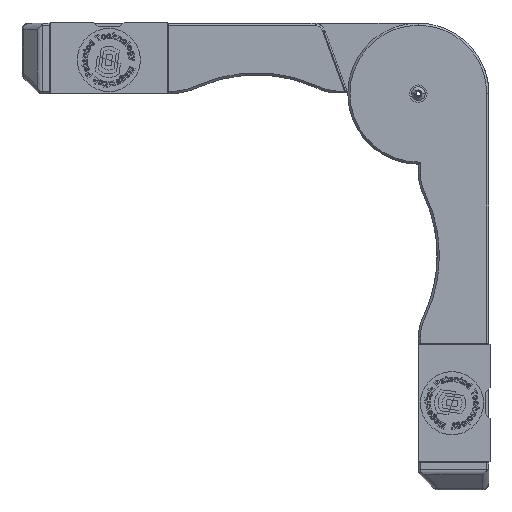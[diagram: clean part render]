
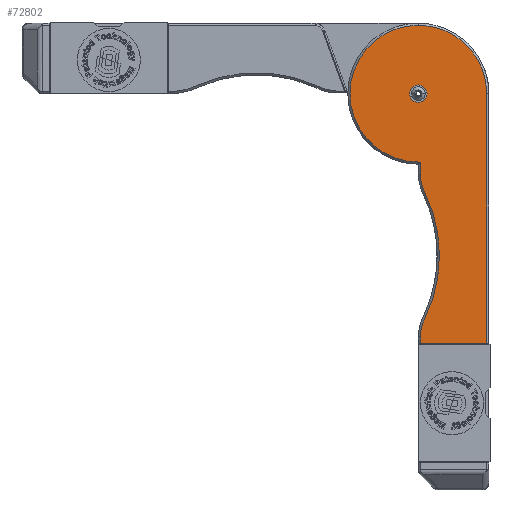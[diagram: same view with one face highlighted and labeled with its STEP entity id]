
A CAD part, left-side view. The second image highlights one B-rep face of the part: STEP entity #72802.
In plain terms, the highlighted planar face has unit normal (-1, 0, 0).
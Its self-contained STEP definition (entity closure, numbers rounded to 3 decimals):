
#2 = ORIENTED_EDGE ( 'NONE', *, *, #88353, .T. ) ;
#121 = CARTESIAN_POINT ( 'NONE',  ( 0., 32.5, 182.5 ) ) ;
#4116 = AXIS2_PLACEMENT_3D ( 'NONE', #25787, #7199, #34837 ) ;
#5517 = DIRECTION ( 'NONE',  ( 1., 0., 0. ) ) ;
#6625 = FACE_BOUND ( 'NONE', #60863, .T. ) ;
#7199 = DIRECTION ( 'NONE',  ( 1., 0., 0. ) ) ;
#7974 = DIRECTION ( 'NONE',  ( 0., 0., 1. ) ) ;
#8461 = CIRCLE ( 'NONE', #17123, 31.5 ) ;
#9912 = DIRECTION ( 'NONE',  ( 1., 0., 0. ) ) ;
#10120 = DIRECTION ( 'NONE',  ( -1., 0., 0. ) ) ;
#10487 = CARTESIAN_POINT ( 'NONE',  ( 0., 32.5, 151. ) ) ;
#10897 = DIRECTION ( 'NONE',  ( 0., 0., 1. ) ) ;
#11443 = EDGE_CURVE ( 'NONE', #16350, #42594, #71602, .T. ) ;
#11577 = EDGE_LOOP ( 'NONE', ( #111543, #2, #114775, #24382, #39953, #70465, #61548, #63711, #88092, #99226 ) ) ;
#12343 = EDGE_CURVE ( 'NONE', #105868, #107606, #94990, .T. ) ;
#12499 = CIRCLE ( 'NONE', #19021, 19. ) ;
#12805 = DIRECTION ( 'NONE',  ( 0., 0., 1. ) ) ;
#13199 = CARTESIAN_POINT ( 'NONE',  ( 0., 1., 182.5 ) ) ;
#14616 = CARTESIAN_POINT ( 'NONE',  ( 0., 32.5, 182.5 ) ) ;
#14781 = VERTEX_POINT ( 'NONE', #63027 ) ;
#15048 = EDGE_CURVE ( 'NONE', #67876, #73642, #12499, .T. ) ;
#16350 = VERTEX_POINT ( 'NONE', #37163 ) ;
#16491 = CARTESIAN_POINT ( 'NONE',  ( 0., 65., 67.5 ) ) ;
#16895 = CARTESIAN_POINT ( 'NONE',  ( 0., 31.5, 151.016 ) ) ;
#17123 = AXIS2_PLACEMENT_3D ( 'NONE', #116475, #70558, #7974 ) ;
#17378 = CIRCLE ( 'NONE', #41175, 4. ) ;
#17557 = DIRECTION ( 'NONE',  ( 0., 0., 1. ) ) ;
#17841 = VECTOR ( 'NONE', #12805, 1000. ) ;
#18377 = DIRECTION ( 'NONE',  ( 0., 0., 1. ) ) ;
#19021 = AXIS2_PLACEMENT_3D ( 'NONE', #104927, #50635, #32412 ) ;
#19571 = EDGE_CURVE ( 'NONE', #60131, #16350, #68868, .T. ) ;
#20937 = CARTESIAN_POINT ( 'NONE',  ( 0., 12.5, 145.478 ) ) ;
#21852 = VERTEX_POINT ( 'NONE', #111226 ) ;
#24238 = VERTEX_POINT ( 'NONE', #67218 ) ;
#24382 = ORIENTED_EDGE ( 'NONE', *, *, #11443, .T. ) ;
#25101 = EDGE_CURVE ( 'NONE', #24238, #67876, #105286, .T. ) ;
#25787 = CARTESIAN_POINT ( 'NONE',  ( 0., 88.792, 108. ) ) ;
#27273 = EDGE_CURVE ( 'NONE', #110884, #24238, #52408, .T. ) ;
#28303 = CARTESIAN_POINT ( 'NONE',  ( 0., 32.5, 182.5 ) ) ;
#31363 = CIRCLE ( 'NONE', #98314, 4. ) ;
#32412 = DIRECTION ( 'NONE',  ( 0., 0., 1. ) ) ;
#33441 = VECTOR ( 'NONE', #79553, 1000. ) ;
#34631 = CARTESIAN_POINT ( 'NONE',  ( 0., 32.5, 178.5 ) ) ;
#34837 = DIRECTION ( 'NONE',  ( 0., 0., 1. ) ) ;
#36173 = CARTESIAN_POINT ( 'NONE',  ( 0., 32.5, 182.5 ) ) ;
#36452 = EDGE_CURVE ( 'NONE', #107606, #110884, #54734, .T. ) ;
#37163 = CARTESIAN_POINT ( 'NONE',  ( 0., 1., 182.5 ) ) ;
#39724 = CARTESIAN_POINT ( 'NONE',  ( 0., 31.5, 70.522 ) ) ;
#39953 = ORIENTED_EDGE ( 'NONE', *, *, #51779, .T. ) ;
#41175 = AXIS2_PLACEMENT_3D ( 'NONE', #45543, #9912, #72484 ) ;
#42594 = VERTEX_POINT ( 'NONE', #73099 ) ;
#43116 = CARTESIAN_POINT ( 'NONE',  ( 0., 31.5, 182.5 ) ) ;
#45543 = CARTESIAN_POINT ( 'NONE',  ( 0., 32.5, 182.5 ) ) ;
#50217 = PLANE ( 'NONE',  #73853 ) ;
#50635 = DIRECTION ( 'NONE',  ( -1., 0., 0. ) ) ;
#51779 = EDGE_CURVE ( 'NONE', #42594, #105868, #8461, .T. ) ;
#52408 = CIRCLE ( 'NONE', #96722, 19. ) ;
#52844 = CARTESIAN_POINT ( 'NONE',  ( 0., 29.553, 78.9 ) ) ;
#54734 = LINE ( 'NONE', #43116, #33441 ) ;
#58417 = AXIS2_PLACEMENT_3D ( 'NONE', #28303, #10120, #10897 ) ;
#60131 = VERTEX_POINT ( 'NONE', #89359 ) ;
#60457 = DIRECTION ( 'NONE',  ( 0., -1., 0. ) ) ;
#60863 = EDGE_LOOP ( 'NONE', ( #102376, #98971 ) ) ;
#61548 = ORIENTED_EDGE ( 'NONE', *, *, #36452, .T. ) ;
#63027 = CARTESIAN_POINT ( 'NONE',  ( 0., 32.5, 186.5 ) ) ;
#63711 = ORIENTED_EDGE ( 'NONE', *, *, #27273, .T. ) ;
#64475 = AXIS2_PLACEMENT_3D ( 'NONE', #121, #80890, #17557 ) ;
#67218 = CARTESIAN_POINT ( 'NONE',  ( 0., 29.553, 137.1 ) ) ;
#67876 = VERTEX_POINT ( 'NONE', #52844 ) ;
#68868 = LINE ( 'NONE', #13199, #17841 ) ;
#69218 = DIRECTION ( 'NONE',  ( 0., 0., 1. ) ) ;
#70465 = ORIENTED_EDGE ( 'NONE', *, *, #12343, .T. ) ;
#70558 = DIRECTION ( 'NONE',  ( -1., 0., 0. ) ) ;
#71602 = CIRCLE ( 'NONE', #64475, 31.5 ) ;
#72484 = DIRECTION ( 'NONE',  ( 0., 0., 1. ) ) ;
#72802 = ADVANCED_FACE ( 'NONE', ( #6625, #87407 ), #50217, .F. ) ;
#73099 = CARTESIAN_POINT ( 'NONE',  ( 0., 32.5, 214. ) ) ;
#73642 = VERTEX_POINT ( 'NONE', #39724 ) ;
#73853 = AXIS2_PLACEMENT_3D ( 'NONE', #14616, #5517, #104910 ) ;
#78117 = EDGE_CURVE ( 'NONE', #105671, #14781, #31363, .T. ) ;
#79553 = DIRECTION ( 'NONE',  ( 0., 0., -1. ) ) ;
#80890 = DIRECTION ( 'NONE',  ( -1., 0., 0. ) ) ;
#81042 = CARTESIAN_POINT ( 'NONE',  ( 0., 31.5, 145.478 ) ) ;
#87407 = FACE_OUTER_BOUND ( 'NONE', #11577, .T. ) ;
#88092 = ORIENTED_EDGE ( 'NONE', *, *, #25101, .T. ) ;
#88353 = EDGE_CURVE ( 'NONE', #21852, #60131, #112972, .T. ) ;
#88837 = VECTOR ( 'NONE', #60457, 1000. ) ;
#89359 = CARTESIAN_POINT ( 'NONE',  ( 0., 1., 67.5 ) ) ;
#90977 = DIRECTION ( 'NONE',  ( 0., 0., -1. ) ) ;
#91868 = EDGE_CURVE ( 'NONE', #73642, #21852, #94029, .T. ) ;
#94029 = LINE ( 'NONE', #100870, #109573 ) ;
#94990 = CIRCLE ( 'NONE', #58417, 31.5 ) ;
#96722 = AXIS2_PLACEMENT_3D ( 'NONE', #20937, #111220, #69218 ) ;
#98314 = AXIS2_PLACEMENT_3D ( 'NONE', #36173, #99563, #18377 ) ;
#98971 = ORIENTED_EDGE ( 'NONE', *, *, #78117, .T. ) ;
#99226 = ORIENTED_EDGE ( 'NONE', *, *, #15048, .T. ) ;
#99563 = DIRECTION ( 'NONE',  ( 1., 0., 0. ) ) ;
#100870 = CARTESIAN_POINT ( 'NONE',  ( 0., 31.5, 182.5 ) ) ;
#100908 = EDGE_CURVE ( 'NONE', #14781, #105671, #17378, .T. ) ;
#102376 = ORIENTED_EDGE ( 'NONE', *, *, #100908, .T. ) ;
#104910 = DIRECTION ( 'NONE',  ( 0., 0., 1. ) ) ;
#104927 = CARTESIAN_POINT ( 'NONE',  ( 0., 12.5, 70.522 ) ) ;
#105286 = CIRCLE ( 'NONE', #4116, 66. ) ;
#105671 = VERTEX_POINT ( 'NONE', #34631 ) ;
#105868 = VERTEX_POINT ( 'NONE', #10487 ) ;
#107606 = VERTEX_POINT ( 'NONE', #16895 ) ;
#109573 = VECTOR ( 'NONE', #90977, 1000. ) ;
#110884 = VERTEX_POINT ( 'NONE', #81042 ) ;
#111220 = DIRECTION ( 'NONE',  ( -1., 0., 0. ) ) ;
#111226 = CARTESIAN_POINT ( 'NONE',  ( 0., 31.5, 67.5 ) ) ;
#111543 = ORIENTED_EDGE ( 'NONE', *, *, #91868, .T. ) ;
#112972 = LINE ( 'NONE', #16491, #88837 ) ;
#114775 = ORIENTED_EDGE ( 'NONE', *, *, #19571, .T. ) ;
#116475 = CARTESIAN_POINT ( 'NONE',  ( 0., 32.5, 182.5 ) ) ;
